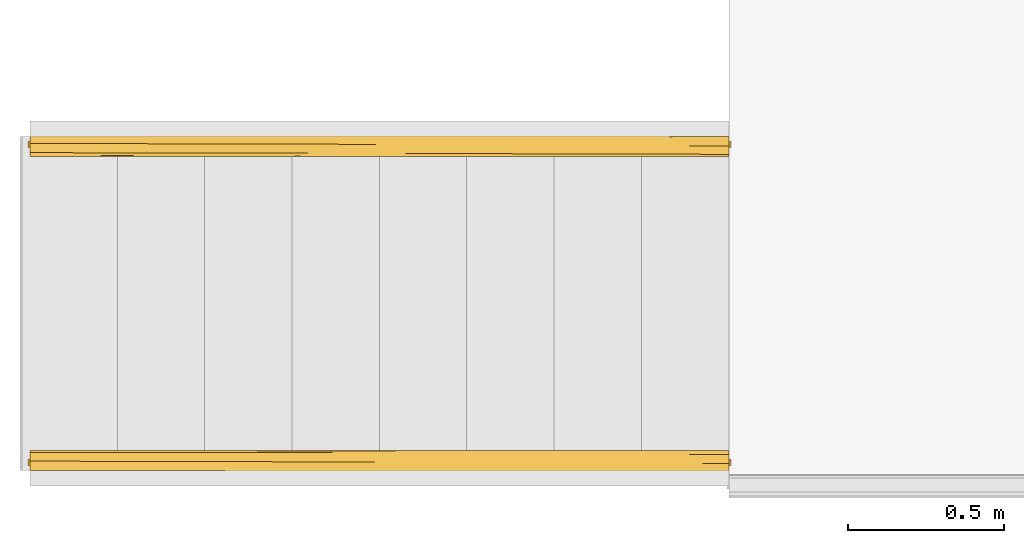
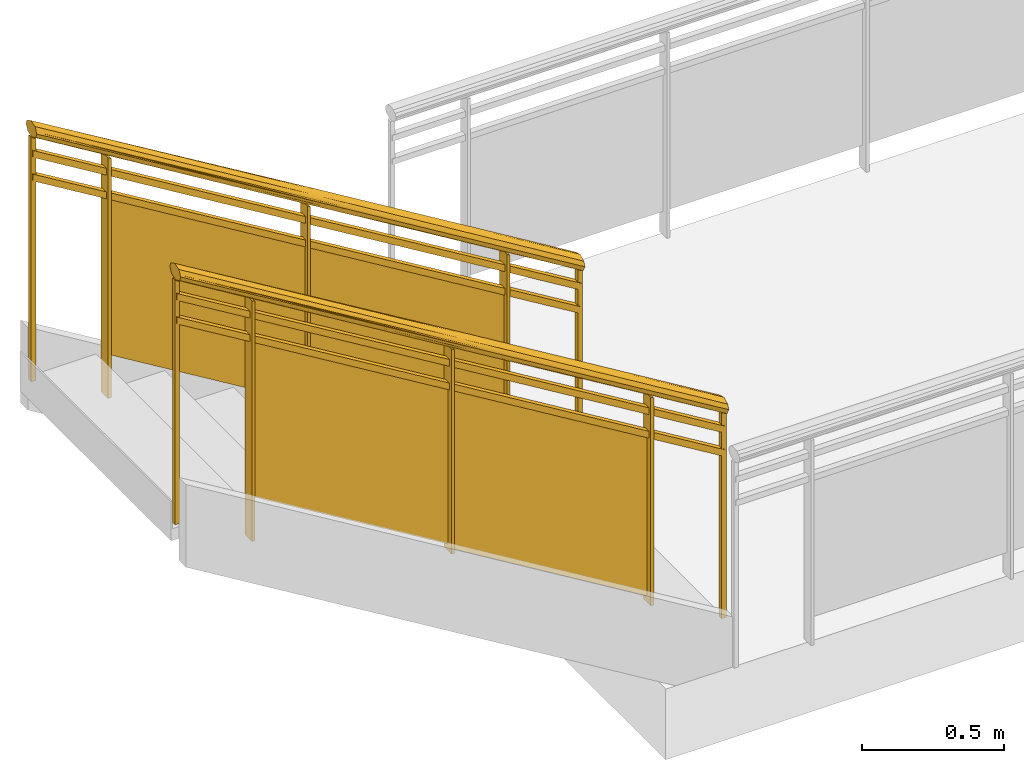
# One storey, part 3 of 4: 2 railings, 1 element without a shape of its own.
"""IFC2X3 building model written with IfcOpenShell, lengths in feet."""

import ifcopenshell
import ifcopenshell.guid

model = None  # the IFC model being written
_history = None  # IfcOwnerHistory: only IFC2X3 demands one
_inside = {}  # id of a spatial element -> (the spatial element, [elements in it])
_under = {}  # id of a project, library or spatial element -> (it, [spatial elements below it])
_declared = {}  # id of a project -> (the project, [libraries it declares])
_typed = {}  # id of a type object -> (the type object, [elements of that type])
_made_of = {}  # id of a material, layer set ... -> (it, [elements and type objects made of it])


def new_model(schema):
    """Start an empty IFC model of exactly this schema.

    Asked for "IFC4X3", IfcOpenShell would pick the latest addendum, in which some entities
    have other attributes; the version numbers below select the first issue.
    IFC2X3 requires an IfcOwnerHistory on every rooted entity: one is made here for all.
    """
    global model, _history
    if schema == "IFC4X3":
        model = ifcopenshell.file(schema_version=(4, 3, 0, 0))
    else:
        model = ifcopenshell.file(schema=schema)
    _inside.clear()
    _under.clear()
    _declared.clear()
    _typed.clear()
    _made_of.clear()
    _history = None
    if model.schema == "IFC2X3":
        org = make("IfcOrganization", Name="unknown")
        user = make(
            "IfcPersonAndOrganization",
            ThePerson=make("IfcPerson", FamilyName="unknown"),
            TheOrganization=org,
        )
        app = make(
            "IfcApplication",
            ApplicationDeveloper=org,
            Version="unknown",
            ApplicationFullName="unknown",
            ApplicationIdentifier="unknown",
        )
        _history = make(
            "IfcOwnerHistory",
            OwningUser=user,
            OwningApplication=app,
            ChangeAction="ADDED",
            CreationDate=0,
        )
    return model


def make(cls, **values):
    """One entity of the class cls with the attributes given. An attribute that is None is left unset."""
    return model.create_entity(
        cls, **{name: value for name, value in values.items() if value is not None}
    )


def entity(cls, *values):
    """Any entity or typed value of the class cls, its attributes in the order of the schema. None: left unset."""
    e = model.create_entity(cls)
    for i, value in enumerate(values):
        if value is not None:
            e[i] = value
    return e


def rooted(cls, **values):
    """An entity with a GlobalId (a new one), such as an element, a storey or a relation."""
    return make(cls, GlobalId=ifcopenshell.guid.new(), OwnerHistory=_history, **values)


def si_unit(unit_type, name, prefix=None):
    """IfcSIUnit, for example si_unit("LENGTHUNIT", "METRE", prefix="MILLI")."""
    return make("IfcSIUnit", UnitType=unit_type, Prefix=prefix, Name=name)


def converted_unit(unit_type, name, factor, base, dimensions=None, offset=None):
    """IfcConversionBasedUnit, such as the inch: factor (a typed value) times the base unit."""
    return make(
        "IfcConversionBasedUnit"
        if offset is None
        else "IfcConversionBasedUnitWithOffset",
        ConversionOffset=offset,
        Dimensions=None
        if dimensions is None
        else entity("IfcDimensionalExponents", *dimensions),
        UnitType=unit_type,
        Name=name,
        ConversionFactor=make(
            "IfcMeasureWithUnit", ValueComponent=factor, UnitComponent=base
        ),
    )


def derived_unit(unit_type, elements):
    """IfcDerivedUnit: a product of units, each with its exponent."""
    return make(
        "IfcDerivedUnit",
        Elements=[
            make("IfcDerivedUnitElement", Unit=unit, Exponent=power)
            for unit, power in elements
        ],
        UnitType=unit_type,
    )


def assignment(units):
    """IfcUnitAssignment: the units of a project."""
    return None if units is None else make("IfcUnitAssignment", Units=units)


def point(xyz):
    """IfcCartesianPoint."""
    return None if xyz is None else make("IfcCartesianPoint", Coordinates=xyz)


def direction(xyz):
    """IfcDirection."""
    return None if xyz is None else make("IfcDirection", DirectionRatios=xyz)


def frame(location, z_axis=None, x_axis=None):
    """IfcAxis2Placement3D, a coordinate frame: its origin and axes. An axis left out is left unset."""
    return make(
        "IfcAxis2Placement3D",
        Location=point(location),
        Axis=direction(z_axis),
        RefDirection=direction(x_axis),
    )


def origin():
    """The frame at (0, 0, 0) with its axes left unset."""
    return frame((0.0, 0.0, 0.0))


def place(relative_to, where):
    """IfcLocalPlacement: puts the frame where relative to a parent placement (None: the world)."""
    return make(
        "IfcLocalPlacement", PlacementRelTo=relative_to, RelativePlacement=where
    )


def context(
    kind, dimensions, precision=None, world=None, true_north=None, identifier=None
):
    """IfcGeometricRepresentationContext, for example the 3D "Model" context."""
    return make(
        "IfcGeometricRepresentationContext",
        ContextIdentifier=identifier,
        ContextType=kind,
        CoordinateSpaceDimension=dimensions,
        Precision=precision,
        WorldCoordinateSystem=world,
        TrueNorth=true_north,
    )


def subcontext(parent, identifier, kind, view, scale=None):
    """IfcGeometricRepresentationSubContext, for example "Body" below "Model"."""
    return make(
        "IfcGeometricRepresentationSubContext",
        ContextIdentifier=identifier,
        ContextType=kind,
        ParentContext=parent,
        TargetScale=scale,
        TargetView=view,
    )


def project(units=None, contexts=None):
    """IfcProject with its units and contexts."""
    return rooted(
        "IfcProject",
        Name="project",
        RepresentationContexts=contexts,
        UnitsInContext=assignment(units),
    )


def spatial(cls, under=None, at=None, **own):
    """A site, building, storey or space (cls), placed at a placement, below another one or the project."""
    s = rooted(cls, ObjectPlacement=at, **own)
    if under is not None:
        _under.setdefault(under.id(), (under, []))[1].append(s)
    return s


def faces_of(points, faces, orient=None, outer=None):
    """IfcFace entities. A face is a list of loops; a loop is a list of indices into points, from 0.

    orient and outer hold one flag for each loop. By default every Orientation is true, the
    first loop of a face is its IfcFaceOuterBound and the others are IfcFaceBound.
    """
    made = []
    for i, loops in enumerate(faces):
        bounds = []
        for j, loop in enumerate(loops):
            is_outer = j == 0 if outer is None else outer[i][j]
            bounds.append(
                make(
                    "IfcFaceOuterBound" if is_outer else "IfcFaceBound",
                    Bound=make("IfcPolyLoop", Polygon=[points[k] for k in loop]),
                    Orientation=True if orient is None else orient[i][j],
                )
            )
        made.append(make("IfcFace", Bounds=bounds))
    return made


def faceted_brep(points, faces, orient=None, outer=None, voids=None):
    """IfcFacetedBrep: a solid bounded by flat faces; with voids (closed shells), ...WithVoids."""
    shared = [point(p) for p in points]
    hull = make("IfcClosedShell", CfsFaces=faces_of(shared, faces, orient, outer))
    if voids is None:
        return make("IfcFacetedBrep", Outer=hull)
    return make(
        "IfcFacetedBrepWithVoids",
        Outer=hull,
        Voids=[
            make(cls, CfsFaces=faces_of(shared, fs, o, b)) for cls, fs, o, b in voids
        ],
    )


def shape(context_of_items, identifier, shape_type, items):
    """IfcShapeRepresentation: the items that make up one representation, for example the "Body"."""
    return make(
        "IfcShapeRepresentation",
        ContextOfItems=context_of_items,
        RepresentationIdentifier=identifier,
        RepresentationType=shape_type,
        Items=items,
    )


def material(Name=None, Category=None):
    """IfcMaterial."""
    return make("IfcMaterial", Name=Name, Category=Category)


def material_list(materials):
    """IfcMaterialList."""
    return make("IfcMaterialList", Materials=materials)


def made_of(thing, what):
    """Note that an element or type object is made of a material, layer set ...; save() writes the relation."""
    if what is not None:
        _made_of.setdefault(what.id(), (what, []))[1].append(thing)
    return thing


def element(
    cls,
    number,
    at=None,
    inside=None,
    cuts=None,
    type_object=None,
    material=None,
    context=None,
    identifier="Body",
    shape_type=None,
    held_by="IfcProductDefinitionShape",
    body=None,
    shapes=None,
    **own,
):
    """One element of the class cls, such as IfcWall. Its Tag is "e" and its number.

    at: its placement. inside: the storey or other place that contains it. cuts: it is an
    opening in that element (IfcRelVoidsElement). A single representation is given by context,
    identifier, shape_type and body (its items); several are given by shapes. held_by: the class
    of the entity that holds the representations. save() writes the other relations.
    """
    e = rooted(cls, Tag="e%d" % number, ObjectPlacement=at, **own)
    if body is not None:
        shapes = [shape(context, identifier, shape_type, body)]
    if shapes is not None:
        e.Representation = make(held_by, Representations=shapes)
    if inside is not None:
        _inside.setdefault(inside.id(), (inside, []))[1].append(e)
    if cuts is not None:
        rooted(
            "IfcRelVoidsElement", RelatingBuildingElement=cuts, RelatedOpeningElement=e
        )
    if type_object is not None:
        _typed.setdefault(type_object.id(), (type_object, []))[1].append(e)
    return made_of(e, material)


def aggregate(whole, parts):
    """IfcRelAggregates: a whole, such as a stair, and the parts it consists of."""
    return rooted("IfcRelAggregates", RelatingObject=whole, RelatedObjects=parts)


def save(model, path):
    """Write the relations noted so far, then the file.

    IfcRelAggregates (storeys below a building ...), IfcRelContainedInSpatialStructure (elements
    in a storey), IfcRelDefinesByType, IfcRelAssociatesMaterial and IfcRelDeclares: one each for
    every whole, place, type object, material and project.
    """
    for whole, parts in _under.values():
        aggregate(whole, parts)
    for where, things in _inside.values():
        rooted(
            "IfcRelContainedInSpatialStructure",
            RelatedElements=things,
            RelatingStructure=where,
        )
    for kind, things in _typed.values():
        rooted("IfcRelDefinesByType", RelatedObjects=things, RelatingType=kind)
    for what, things in _made_of.values():
        rooted("IfcRelAssociatesMaterial", RelatedObjects=things, RelatingMaterial=what)
    for by, libraries in _declared.values():
        rooted("IfcRelDeclares", RelatingContext=by, RelatedDefinitions=libraries)
    model.write(path)


model = new_model("IFC2X3")

# Units and contexts
model_context = context("Model", 3, precision=0.0001, world=origin(), true_north=direction((6.12303176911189e-17, 1.0)))
body_context = subcontext(model_context, "Body", "Model", "MODEL_VIEW")
ifc_project = project(units=[converted_unit("LENGTHUNIT", "FOOT", entity("IfcRatioMeasure", 0.3048), si_unit("LENGTHUNIT", "METRE"), dimensions=[1, 0, 0, 0, 0, 0, 0]), converted_unit("AREAUNIT", "SQUARE FOOT", entity("IfcRatioMeasure", 0.09290304), si_unit("AREAUNIT", "SQUARE_METRE"), dimensions=[2, 0, 0, 0, 0, 0, 0]), converted_unit("VOLUMEUNIT", "CUBIC FOOT", entity("IfcRatioMeasure", 0.028316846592), si_unit("VOLUMEUNIT", "CUBIC_METRE"), dimensions=[3, 0, 0, 0, 0, 0, 0]), converted_unit("PLANEANGLEUNIT", "DEGREE", entity("IfcRatioMeasure", 0.0174532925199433), si_unit("PLANEANGLEUNIT", "RADIAN"), dimensions=[0, 0, 0, 0, 0, 0, 0]), si_unit("MASSUNIT", "GRAM", prefix="KILO"), derived_unit("MASSDENSITYUNIT", [(si_unit("MASSUNIT", "GRAM", prefix="KILO"), 1), (si_unit("LENGTHUNIT", "METRE"), -3)]), si_unit("TIMEUNIT", "SECOND"), si_unit("FREQUENCYUNIT", "HERTZ"), si_unit("THERMODYNAMICTEMPERATUREUNIT", "DEGREE_CELSIUS"), derived_unit("THERMALTRANSMITTANCEUNIT", [(si_unit("MASSUNIT", "GRAM", prefix="KILO"), 1), (si_unit("THERMODYNAMICTEMPERATUREUNIT", "KELVIN"), -1), (si_unit("TIMEUNIT", "SECOND"), -3)]), derived_unit("VOLUMETRICFLOWRATEUNIT", [(si_unit("LENGTHUNIT", "METRE"), 3), (si_unit("TIMEUNIT", "SECOND"), -1)]), si_unit("ELECTRICCURRENTUNIT", "AMPERE"), si_unit("ELECTRICVOLTAGEUNIT", "VOLT"), si_unit("POWERUNIT", "WATT"), si_unit("FORCEUNIT", "NEWTON"), si_unit("ILLUMINANCEUNIT", "LUX"), si_unit("LUMINOUSFLUXUNIT", "LUMEN"), si_unit("LUMINOUSINTENSITYUNIT", "CANDELA"), derived_unit("USERDEFINED", [(si_unit("MASSUNIT", "GRAM", prefix="KILO"), -1), (si_unit("LENGTHUNIT", "METRE"), -2), (si_unit("TIMEUNIT", "SECOND"), 3), (si_unit("LUMINOUSFLUXUNIT", "LUMEN"), 1)]), derived_unit("LINEARVELOCITYUNIT", [(si_unit("LENGTHUNIT", "METRE"), 1), (si_unit("TIMEUNIT", "SECOND"), -1)]), si_unit("PRESSUREUNIT", "PASCAL"), derived_unit("USERDEFINED", [(si_unit("LENGTHUNIT", "METRE"), -2), (si_unit("MASSUNIT", "GRAM", prefix="KILO"), 1), (si_unit("TIMEUNIT", "SECOND"), -2)])], contexts=[model_context])

# Site, building, storey
site_placement = place(None, origin())
site = spatial("IfcSite", under=ifc_project, at=site_placement, Name="Default", CompositionType="ELEMENT")
building_placement = place(site_placement, origin())
building = spatial("IfcBuilding", under=site, at=building_placement, CompositionType="ELEMENT")
storey_placement = place(building_placement, frame((0.0, 0.0, 15.0)))
storey = spatial("IfcBuildingStorey", under=building, at=storey_placement, Name="L 2", CompositionType="ELEMENT", Elevation=14.9999999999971)

# Stair, railings
stair_placement = place(storey_placement, origin())
stair = element("IfcStair", 1, at=stair_placement, inside=storey, Name="Assembled Stair:Stair", ObjectType="Assembled Stair:7\" max riser 11\" tread", ShapeType="NOTDEFINED")
ifc_material_1 = material(Name="Glass")
ifc_material_2 = material(Name="alum - color")
ifc_material_list_1 = material_list([ifc_material_1, ifc_material_2])
railing_1_placement = place(stair_placement, frame((-46.3459961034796, -11.8838750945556, 0.555555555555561)))
railing_1 = element("IfcRailing", 2, at=railing_1_placement, material=ifc_material_list_1, Name="Railing:Glass Panel - Bottom Fill", ObjectType="Railing:Glass Panel - Bottom Fill", PredefinedType="NOTDEFINED", context=body_context, shape_type="Brep", body=[
    faceted_brep([(1.04166666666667, 0.21356716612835, 6.71557302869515), (1.04166666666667, 0.0469004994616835, 6.71557302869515), (1.04166666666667, 0.0469004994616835, 3.33333333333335), (1.04166666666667, 0.21356716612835, 3.33333333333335), (1.0, 0.213567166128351, 6.74082555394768), (1.0, 0.213567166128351, 3.33333333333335), (1.0, 0.0469004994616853, 6.74082555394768), (1.0, 0.0469004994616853, 3.33333333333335)], [[[0, 1, 2, 3]], [[4, 0, 3, 5]], [[6, 4, 5, 7]], [[1, 6, 7, 2]], [[1, 0, 4, 6]], [[3, 2, 7, 5]]]),
    faceted_brep([(3.68750000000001, 0.10879302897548, 2.30303030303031), (3.68750000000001, 0.10879302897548, 4.50683388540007), (1.02083333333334, 0.108793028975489, 6.12299550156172), (1.02083333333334, 0.108793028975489, 3.91919191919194), (3.68750000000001, 0.129626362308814, 2.30303030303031), (1.02083333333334, 0.129626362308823, 3.91919191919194), (1.02083333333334, 0.129626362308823, 6.12299550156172), (3.68750000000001, 0.129626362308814, 4.50683388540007)], [[[0, 1, 2, 3]], [[4, 5, 6, 7]], [[1, 0, 4, 7]], [[2, 1, 7, 6]], [[3, 2, 6, 5]], [[0, 3, 5, 4]]]),
    faceted_brep([(3.70833333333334, 0.213567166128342, 5.09941141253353), (3.70833333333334, 0.0469004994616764, 5.09941141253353), (3.70833333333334, 0.0469004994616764, 2.22222222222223), (3.70833333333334, 0.213567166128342, 2.22222222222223), (3.66666666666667, 0.213567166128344, 5.12466393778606), (3.66666666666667, 0.213567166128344, 2.22222222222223), (3.66666666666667, 0.0469004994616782, 5.12466393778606), (3.66666666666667, 0.0469004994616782, 2.22222222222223)], [[[0, 1, 2, 3]], [[4, 0, 3, 5]], [[6, 4, 5, 7]], [[1, 6, 7, 2]], [[1, 0, 4, 6]], [[3, 2, 7, 5]]]),
    faceted_brep([(6.35416666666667, 0.108793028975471, 0.636363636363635), (6.35416666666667, 0.108793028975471, 2.89067226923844), (3.68750000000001, 0.10879302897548, 4.50683388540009), (3.68750000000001, 0.10879302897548, 2.25252525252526), (6.35416666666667, 0.129626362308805, 0.636363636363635), (3.68750000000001, 0.129626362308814, 2.25252525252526), (3.68750000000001, 0.129626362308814, 4.50683388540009), (6.35416666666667, 0.129626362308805, 2.89067226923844)], [[[0, 1, 2, 3]], [[4, 5, 6, 7]], [[1, 0, 4, 7]], [[2, 1, 7, 6]], [[3, 2, 6, 5]], [[0, 3, 5, 4]]]),
    faceted_brep([(6.37500000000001, 0.213567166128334, 3.48324979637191), (6.37500000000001, 0.0469004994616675, 3.48324979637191), (6.37500000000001, 0.0469004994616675, 0.555555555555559), (6.37500000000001, 0.213567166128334, 0.555555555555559), (6.33333333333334, 0.213567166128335, 3.50850232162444), (6.33333333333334, 0.213567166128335, 0.555555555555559), (6.33333333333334, 0.0469004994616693, 3.50850232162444), (6.33333333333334, 0.0469004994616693, 0.555555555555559)], [[[0, 1, 2, 3]], [[4, 0, 3, 5]], [[6, 4, 5, 7]], [[1, 6, 7, 2]], [[1, 0, 4, 6]], [[3, 2, 7, 5]]]),
    faceted_brep([(0.0625, 0.161483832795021, 7.30900737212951), (0.0625, 0.098983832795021, 7.30900737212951), (0.0625, 0.098983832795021, 3.88888888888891), (0.0625, 0.161483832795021, 3.88888888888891), (0.0, 0.161483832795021, 7.34688616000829), (0.0, 0.161483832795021, 3.88888888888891), (0.0, 0.098983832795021, 7.34688616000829), (0.0, 0.098983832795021, 3.88888888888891)], [[[0, 1, 2, 3]], [[4, 0, 3, 5]], [[6, 4, 5, 7]], [[1, 6, 7, 2]], [[1, 0, 4, 6]], [[3, 2, 7, 5]]]),
    faceted_brep([(7.37500000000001, 0.161483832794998, 2.87718919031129), (7.37500000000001, 0.0989838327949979, 2.87718919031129), (7.37500000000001, 0.0989838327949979, 0.0), (7.37500000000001, 0.161483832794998, 0.0), (7.31250000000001, 0.161483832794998, 2.91506797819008), (7.31250000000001, 0.161483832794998, 0.0), (7.31250000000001, 0.0989838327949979, 2.91506797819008), (7.31250000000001, 0.0989838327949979, 0.0)], [[[0, 1, 2, 3]], [[4, 0, 3, 5]], [[6, 4, 5, 7]], [[1, 6, 7, 2]], [[1, 0, 4, 6]], [[3, 2, 7, 5]]]),
    faceted_brep([(7.35416666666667, 0.171900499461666, 2.71538833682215), (7.35416666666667, 0.0885671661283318, 2.71538833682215), (7.35416666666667, 0.0885671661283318, 2.61794499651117), (7.35416666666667, 0.171900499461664, 2.61794499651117), (0.0208333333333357, 0.171900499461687, 7.15983278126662), (0.0208333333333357, 0.171900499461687, 7.06238944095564), (0.0208333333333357, 0.0885671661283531, 7.06238944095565), (0.0208333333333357, 0.0885671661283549, 7.15983278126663)], [[[0, 1, 2, 3]], [[4, 5, 6, 7]], [[1, 0, 4, 7]], [[2, 1, 7, 6]], [[3, 2, 6, 5]], [[0, 3, 5, 4]]]),
    faceted_brep([(7.35416666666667, 0.171900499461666, 2.38205500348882), (7.35416666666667, 0.0885671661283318, 2.38205500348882), (7.35416666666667, 0.0885671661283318, 2.28461166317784), (7.35416666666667, 0.171900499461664, 2.28461166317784), (0.0208333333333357, 0.171900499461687, 6.82649944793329), (0.0208333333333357, 0.171900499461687, 6.72905610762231), (0.0208333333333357, 0.0885671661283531, 6.72905610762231), (0.0208333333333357, 0.0885671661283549, 6.8264994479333)], [[[0, 1, 2, 3]], [[4, 5, 6, 7]], [[1, 0, 4, 7]], [[2, 1, 7, 6]], [[3, 2, 6, 5]], [[0, 3, 5, 4]]]),
    faceted_brep([(7.35416666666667, 0.213875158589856, 3.0814663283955), (7.35416666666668, 0.165521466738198, 3.09524477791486), (7.35416666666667, 0.117167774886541, 3.10902322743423), (7.35416666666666, 0.0731372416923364, 3.08672922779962), (7.35416666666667, 0.02910670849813, 3.06443522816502), (7.35416666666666, 0.0171702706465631, 3.03221761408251), (7.35416666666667, 0.00523383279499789, 3.0), (7.35416666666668, 0.025913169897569, 2.95926683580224), (7.35416666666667, 0.0465925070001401, 2.91853367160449), (7.35416666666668, 0.0949461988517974, 2.90475522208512), (7.35416666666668, 0.119123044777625, 2.89786599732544), (7.35416666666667, 0.143299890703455, 2.89097677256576), (7.35416666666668, 0.187330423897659, 2.91327077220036), (7.35416666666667, 0.231360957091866, 2.93556477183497), (7.35416666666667, 0.243297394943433, 2.96778238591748), (7.35416666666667, 0.255233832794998, 3.0), (7.35416666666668, 0.234554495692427, 3.04073316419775), (0.0208333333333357, 0.23455449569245, 7.40371128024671), (0.0208333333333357, 0.213875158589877, 7.36297811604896), (0.0208333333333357, 0.165521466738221, 7.34919966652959), (0.0208333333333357, 0.117167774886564, 7.33542121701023), (0.0208333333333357, 0.0731372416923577, 7.35771521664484), (0.0208333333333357, 0.0291067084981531, 7.38000921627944), (0.0208333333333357, 0.0171702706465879, 7.41222683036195), (0.0208333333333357, 0.00523383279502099, 7.44444444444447), (0.0208333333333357, 0.0160886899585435, 7.46582582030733), (0.0208333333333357, 0.0259131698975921, 7.48517760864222), (0.0208333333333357, 0.0465925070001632, 7.52591077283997), (0.0208333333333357, 0.0949461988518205, 7.53968922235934), (0.0208333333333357, 0.143299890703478, 7.5534676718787), (0.0208333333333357, 0.165315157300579, 7.5423206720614), (0.0208333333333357, 0.187330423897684, 7.5311736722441), (0.0208333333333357, 0.231360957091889, 7.50887967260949), (0.0208333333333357, 0.243297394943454, 7.47666205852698), (0.0208333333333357, 0.255233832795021, 7.44444444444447), (3.67470945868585, 0.0137122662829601, 5.19028869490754), (3.50252181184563, 0.0829558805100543, 5.23284993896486), (3.45921612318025, 0.0528675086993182, 5.27447257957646), (4.29628493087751, 0.0291542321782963, 4.78876910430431), (4.215531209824, 0.00523383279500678, 4.90220330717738), (3.15949109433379, 0.00523383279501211, 5.5422276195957), (3.33385169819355, 0.197494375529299, 5.34415364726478), (4.14914124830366, 0.165864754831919, 4.83736380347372), (3.68570699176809, 0.130266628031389, 5.11368513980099), (3.64781981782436, 0.223695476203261, 5.17347577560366), (3.92848502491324, 0.24273434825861, 5.02838773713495), (4.21552156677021, 0.255233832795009, 4.9022091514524), (3.82716822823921, 0.248958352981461, 5.17187272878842), (4.04455402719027, 0.234486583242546, 5.06630868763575), (3.23018888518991, 0.211415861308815, 5.58273826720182), (3.68909777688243, 0.181027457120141, 5.32141906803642), (4.1835080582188, 0.00868237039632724, 4.94718335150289), (3.83159048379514, 0.133323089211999, 5.24448493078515), (3.94783373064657, 0.0988442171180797, 5.17055526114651), (3.77597728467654, 0.0386138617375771, 5.24317359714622), (3.99573411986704, 0.0188155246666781, 5.08510860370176), (3.11455551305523, 0.0671397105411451, 5.66409552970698)], [[[0, 1, 2, 3, 4, 5, 6, 7, 8, 9, 10, 11, 12, 13, 14, 15, 16]], [[17, 18, 19, 20, 21, 22, 23, 24, 25, 26, 27, 28, 29, 30, 31, 32, 33, 34]], [[35, 7, 6]], [[9, 8, 36, 10]], [[22, 37, 38]], [[37, 36, 8]], [[21, 36, 37]], [[35, 6, 39, 40]], [[41, 42, 19]], [[38, 7, 35]], [[19, 42, 43]], [[44, 41, 18]], [[13, 45, 14]], [[8, 38, 37]], [[44, 12, 41]], [[38, 8, 7]], [[11, 43, 42]], [[17, 34, 46]], [[35, 23, 22]], [[11, 10, 43]], [[40, 24, 23]], [[21, 37, 22]], [[36, 21, 20]], [[36, 20, 43]], [[36, 43, 10]], [[43, 20, 19]], [[42, 12, 11]], [[12, 42, 41]], [[13, 12, 44]], [[18, 41, 19]], [[46, 15, 14]], [[44, 18, 17]], [[17, 45, 44]], [[38, 35, 22]], [[45, 17, 46]], [[23, 35, 40]], [[44, 45, 13]], [[14, 45, 46]], [[16, 47, 48]], [[0, 48, 49]], [[49, 31, 50]], [[31, 30, 50]], [[51, 26, 25]], [[2, 52, 53]], [[54, 27, 26]], [[54, 55, 4]], [[26, 51, 55]], [[47, 16, 15]], [[54, 26, 55]], [[5, 4, 55]], [[25, 24, 40, 39]], [[56, 54, 3]], [[56, 3, 53]], [[50, 0, 49]], [[27, 54, 56]], [[51, 39, 6]], [[53, 52, 28]], [[54, 4, 3]], [[56, 28, 27]], [[28, 56, 53]], [[5, 55, 51]], [[29, 28, 52]], [[2, 53, 3]], [[30, 29, 52]], [[52, 2, 1]], [[1, 0, 50]], [[52, 50, 30]], [[1, 50, 52]], [[49, 32, 31]], [[32, 49, 48]], [[33, 48, 47]], [[16, 48, 0]], [[46, 34, 47, 15]], [[33, 32, 48]], [[33, 47, 34]], [[5, 51, 6]], [[39, 51, 25]]]),
])
ifc_material_list_2 = material_list([ifc_material_1, ifc_material_2])
railing_2_placement = place(stair_placement, frame((-46.3459961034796, -15.2172084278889, 0.555555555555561)))
railing_2 = element("IfcRailing", 3, at=railing_2_placement, material=ifc_material_list_2, Name="Railing:Glass Panel - Bottom Fill", ObjectType="Railing:Glass Panel - Bottom Fill", PredefinedType="NOTDEFINED", context=body_context, shape_type="Brep", body=[
    faceted_brep([(1.04166666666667, 0.0469004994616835, 6.71557302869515), (1.04166666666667, 0.0469004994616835, 3.33333333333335), (1.04166666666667, 0.213567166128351, 3.33333333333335), (1.04166666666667, 0.213567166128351, 6.71557302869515), (1.0, 0.0469004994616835, 6.74082555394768), (1.0, 0.0469004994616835, 3.33333333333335), (1.0, 0.213567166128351, 6.74082555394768), (1.0, 0.213567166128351, 3.33333333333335)], [[[0, 1, 2, 3]], [[4, 5, 1, 0]], [[6, 7, 5, 4]], [[3, 2, 7, 6]], [[3, 6, 4, 0]], [[1, 5, 7, 2]]]),
    faceted_brep([(3.68750000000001, 0.151674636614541, 2.30303030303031), (1.02083333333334, 0.151674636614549, 3.91919191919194), (1.02083333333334, 0.151674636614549, 6.12299550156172), (3.68750000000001, 0.151674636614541, 4.50683388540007), (3.68750000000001, 0.130841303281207, 2.30303030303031), (3.68750000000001, 0.130841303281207, 4.50683388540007), (1.02083333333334, 0.130841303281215, 6.12299550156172), (1.02083333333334, 0.130841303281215, 3.91919191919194)], [[[0, 1, 2, 3]], [[4, 5, 6, 7]], [[3, 5, 4, 0]], [[2, 6, 5, 3]], [[1, 7, 6, 2]], [[0, 4, 7, 1]]]),
    faceted_brep([(3.70833333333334, 0.0469004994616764, 5.09941141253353), (3.70833333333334, 0.0469004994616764, 2.22222222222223), (3.70833333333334, 0.213567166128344, 2.22222222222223), (3.70833333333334, 0.213567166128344, 5.09941141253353), (3.66666666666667, 0.0469004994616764, 5.12466393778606), (3.66666666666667, 0.0469004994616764, 2.22222222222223), (3.66666666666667, 0.213567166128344, 5.12466393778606), (3.66666666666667, 0.213567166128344, 2.22222222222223)], [[[0, 1, 2, 3]], [[4, 5, 1, 0]], [[6, 7, 5, 4]], [[3, 2, 7, 6]], [[3, 6, 4, 0]], [[1, 5, 7, 2]]]),
    faceted_brep([(6.35416666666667, 0.151674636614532, 0.636363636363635), (3.68750000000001, 0.151674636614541, 2.25252525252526), (3.68750000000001, 0.151674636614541, 4.50683388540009), (6.35416666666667, 0.151674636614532, 2.89067226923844), (6.35416666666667, 0.130841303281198, 0.636363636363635), (6.35416666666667, 0.130841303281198, 2.89067226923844), (3.68750000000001, 0.130841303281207, 4.50683388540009), (3.68750000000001, 0.130841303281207, 2.25252525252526)], [[[0, 1, 2, 3]], [[4, 5, 6, 7]], [[3, 5, 4, 0]], [[2, 6, 5, 3]], [[1, 7, 6, 2]], [[0, 4, 7, 1]]]),
    faceted_brep([(6.37500000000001, 0.0469004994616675, 3.48324979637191), (6.37500000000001, 0.0469004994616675, 0.555555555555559), (6.37500000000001, 0.213567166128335, 0.555555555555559), (6.37500000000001, 0.213567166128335, 3.48324979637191), (6.33333333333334, 0.0469004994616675, 3.50850232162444), (6.33333333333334, 0.0469004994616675, 0.555555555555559), (6.33333333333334, 0.213567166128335, 3.50850232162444), (6.33333333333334, 0.213567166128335, 0.555555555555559)], [[[0, 1, 2, 3]], [[4, 5, 1, 0]], [[6, 7, 5, 4]], [[3, 2, 7, 6]], [[3, 6, 4, 0]], [[1, 5, 7, 2]]]),
    faceted_brep([(0.0625, 0.098983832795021, 7.30900737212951), (0.0625, 0.098983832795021, 3.88888888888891), (0.0625, 0.161483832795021, 3.88888888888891), (0.0625, 0.161483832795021, 7.30900737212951), (0.0, 0.098983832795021, 7.34688616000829), (0.0, 0.098983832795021, 3.88888888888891), (0.0, 0.161483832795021, 7.34688616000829), (0.0, 0.161483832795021, 3.88888888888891)], [[[0, 1, 2, 3]], [[4, 5, 1, 0]], [[6, 7, 5, 4]], [[3, 2, 7, 6]], [[3, 6, 4, 0]], [[1, 5, 7, 2]]]),
    faceted_brep([(7.37500000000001, 0.0989838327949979, 2.87718919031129), (7.37500000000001, 0.0989838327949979, 0.0), (7.37500000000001, 0.161483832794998, 0.0), (7.37500000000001, 0.161483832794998, 2.87718919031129), (7.31250000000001, 0.0989838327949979, 2.91506797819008), (7.31250000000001, 0.0989838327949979, 0.0), (7.31250000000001, 0.161483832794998, 2.91506797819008), (7.31250000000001, 0.161483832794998, 0.0)], [[[0, 1, 2, 3]], [[4, 5, 1, 0]], [[6, 7, 5, 4]], [[3, 2, 7, 6]], [[3, 6, 4, 0]], [[1, 5, 7, 2]]]),
    faceted_brep([(7.35416666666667, 0.0885671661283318, 2.71538833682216), (7.35416666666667, 0.0885671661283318, 2.61794499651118), (7.35416666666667, 0.171900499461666, 2.61794499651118), (7.35416666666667, 0.171900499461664, 2.71538833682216), (0.0208333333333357, 0.0885671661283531, 7.15983278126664), (0.0208333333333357, 0.171900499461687, 7.15983278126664), (0.0208333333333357, 0.171900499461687, 7.06238944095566), (0.0208333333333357, 0.0885671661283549, 7.06238944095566)], [[[0, 1, 2, 3]], [[4, 5, 6, 7]], [[1, 0, 4, 7]], [[2, 1, 7, 6]], [[3, 2, 6, 5]], [[0, 3, 5, 4]]]),
    faceted_brep([(7.35416666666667, 0.0885671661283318, 2.38205500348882), (7.35416666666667, 0.0885671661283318, 2.28461166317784), (7.35416666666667, 0.171900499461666, 2.28461166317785), (7.35416666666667, 0.171900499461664, 2.38205500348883), (0.0208333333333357, 0.0885671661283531, 6.8264994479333), (0.0208333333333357, 0.171900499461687, 6.8264994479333), (0.0208333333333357, 0.171900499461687, 6.72905610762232), (0.0208333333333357, 0.0885671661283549, 6.72905610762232)], [[[0, 1, 2, 3]], [[4, 5, 6, 7]], [[1, 0, 4, 7]], [[2, 1, 7, 6]], [[3, 2, 6, 5]], [[0, 3, 5, 4]]]),
    faceted_brep([(7.35416666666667, 0.213875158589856, 3.08146632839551), (7.35416666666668, 0.165521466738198, 3.09524477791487), (7.35416666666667, 0.117167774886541, 3.10902322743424), (7.35416666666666, 0.0731372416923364, 3.08672922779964), (7.35416666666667, 0.02910670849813, 3.06443522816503), (7.35416666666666, 0.0171702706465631, 3.03221761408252), (7.35416666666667, 0.00523383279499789, 3.0), (7.35416666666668, 0.025913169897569, 2.95926683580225), (7.35416666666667, 0.0465925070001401, 2.91853367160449), (7.35416666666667, 0.0949461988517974, 2.90475522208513), (7.35416666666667, 0.119123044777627, 2.89786599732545), (7.35416666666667, 0.143299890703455, 2.89097677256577), (7.35416666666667, 0.187330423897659, 2.91327077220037), (7.35416666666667, 0.231360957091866, 2.93556477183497), (7.35416666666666, 0.243297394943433, 2.96778238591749), (7.35416666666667, 0.255233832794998, 3.0), (7.35416666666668, 0.234554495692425, 3.04073316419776), (0.0208333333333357, 0.23455449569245, 7.40371128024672), (0.0208333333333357, 0.213875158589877, 7.36297811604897), (0.0208333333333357, 0.16552146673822, 7.34919966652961), (0.0208333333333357, 0.117167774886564, 7.33542121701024), (0.0208333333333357, 0.0731372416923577, 7.35771521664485), (0.0208333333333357, 0.0291067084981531, 7.38000921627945), (0.0208333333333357, 0.0171702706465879, 7.41222683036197), (0.0208333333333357, 0.00523383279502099, 7.44444444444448), (0.0208333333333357, 0.0160886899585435, 7.46582582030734), (0.0208333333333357, 0.0259131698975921, 7.48517760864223), (0.0208333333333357, 0.0465925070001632, 7.52591077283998), (0.0208333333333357, 0.0949461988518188, 7.53968922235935), (0.0208333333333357, 0.143299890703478, 7.55346767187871), (0.0208333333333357, 0.165315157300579, 7.54232067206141), (0.0208333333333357, 0.187330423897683, 7.53117367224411), (0.0208333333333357, 0.231360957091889, 7.5088796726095), (0.0208333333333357, 0.243297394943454, 7.47666205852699), (0.0208333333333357, 0.255233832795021, 7.44444444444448), (3.67470945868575, 0.0137122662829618, 5.1902886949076), (3.50252181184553, 0.0829558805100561, 5.23284993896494), (3.45921612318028, 0.05286750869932, 5.27447257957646), (4.29628493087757, 0.0291542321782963, 4.78876910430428), (4.21551383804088, 0.00523383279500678, 4.9022138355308), (3.15949109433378, 0.00523383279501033, 5.54222761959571), (3.33385169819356, 0.197494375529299, 5.34415364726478), (4.14914124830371, 0.165864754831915, 4.83736380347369), (3.68570699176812, 0.130266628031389, 5.11368513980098), (3.64781981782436, 0.223695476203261, 5.17347577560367), (3.92848502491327, 0.24273434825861, 5.02838773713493), (4.2154942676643, 0.255233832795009, 4.90222569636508), (3.82716822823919, 0.248958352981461, 5.17187272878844), (4.04455402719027, 0.234486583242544, 5.06630868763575), (3.2301888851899, 0.211415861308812, 5.58273826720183), (3.68909777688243, 0.181027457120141, 5.32141906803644), (4.18350805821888, 0.00868237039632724, 4.94718335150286), (3.83159048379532, 0.133323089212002, 5.24448493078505), (3.94783373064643, 0.0988442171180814, 5.17055526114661), (3.77597728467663, 0.0386138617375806, 5.24317359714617), (3.99573411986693, 0.0188155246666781, 5.08510860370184), (3.11455551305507, 0.0671397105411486, 5.66409552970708)], [[[0, 1, 2, 3, 4, 5, 6, 7, 8, 9, 10, 11, 12, 13, 14, 15, 16]], [[17, 18, 19, 20, 21, 22, 23, 24, 25, 26, 27, 28, 29, 30, 31, 32, 33, 34]], [[35, 7, 6]], [[9, 8, 36, 10]], [[22, 37, 38]], [[37, 36, 8]], [[21, 36, 37]], [[35, 6, 39, 40]], [[41, 42, 19]], [[38, 7, 35]], [[19, 42, 43]], [[44, 41, 18]], [[13, 45, 14]], [[8, 38, 37]], [[44, 12, 41]], [[38, 8, 7]], [[11, 43, 42]], [[17, 34, 46]], [[35, 23, 22]], [[11, 10, 43]], [[40, 24, 23]], [[21, 37, 22]], [[36, 21, 20]], [[36, 20, 43]], [[36, 43, 10]], [[43, 20, 19]], [[42, 12, 11]], [[12, 42, 41]], [[13, 12, 44]], [[18, 41, 19]], [[46, 15, 14]], [[44, 18, 17]], [[17, 45, 44]], [[38, 35, 22]], [[45, 17, 46]], [[23, 35, 40]], [[44, 45, 13]], [[14, 45, 46]], [[16, 47, 48]], [[0, 48, 49]], [[49, 31, 50]], [[31, 30, 50]], [[51, 26, 25]], [[2, 52, 53]], [[54, 27, 26]], [[54, 55, 4]], [[26, 51, 55]], [[47, 16, 15]], [[54, 26, 55]], [[5, 4, 55]], [[25, 24, 40, 39]], [[56, 54, 3]], [[56, 3, 53]], [[50, 0, 49]], [[27, 54, 56]], [[51, 39, 6]], [[53, 52, 28]], [[54, 4, 3]], [[56, 28, 27]], [[28, 56, 53]], [[5, 55, 51]], [[29, 28, 52]], [[2, 53, 3]], [[30, 29, 52]], [[52, 2, 1]], [[1, 0, 50]], [[52, 50, 30]], [[1, 50, 52]], [[49, 32, 31]], [[32, 49, 48]], [[33, 48, 47]], [[16, 48, 0]], [[46, 34, 47, 15]], [[33, 32, 48]], [[33, 47, 34]], [[5, 51, 6]], [[39, 51, 25]]]),
])
aggregate(stair, [railing_1, railing_2])

save(model, "model.ifc")
